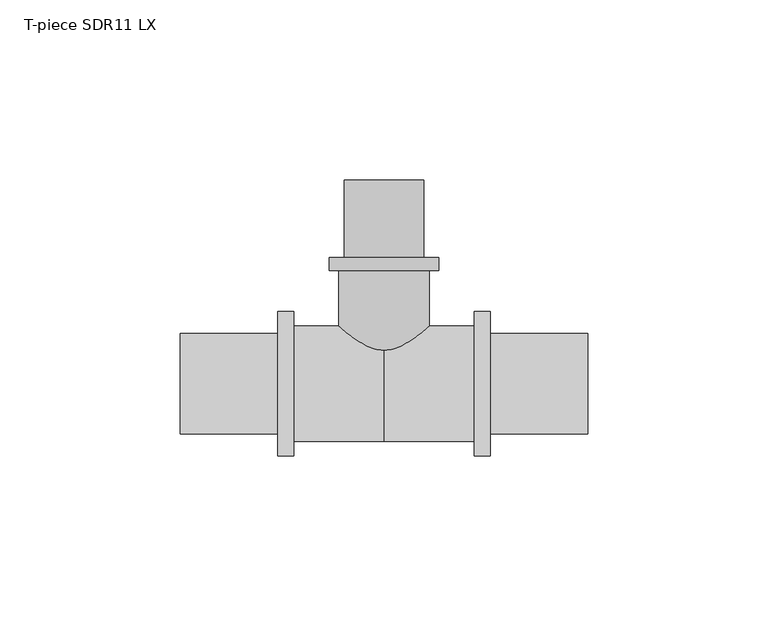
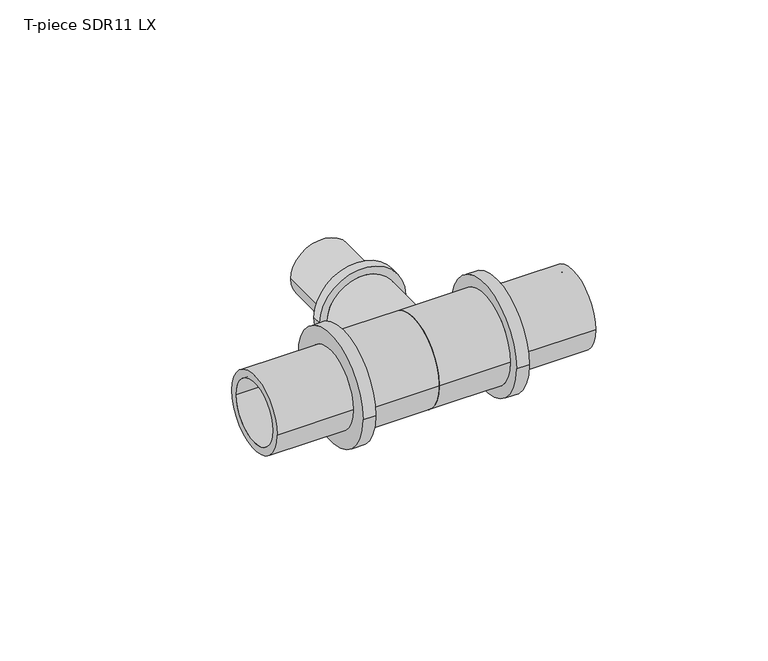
"""IFC4 building model written with IfcOpenShell, lengths in millimetres: pipe fitting geometry, T-piece SDR11 LX : T-piece LX SDR11 LX."""

from ifc_helpers import new_model, si_unit, point, frame, origin, place, context, project, spatial, polyline, circle_curve, ellipse_curve, trimmed, source, transform, mapped, element, save
from ifc_brep_helpers import plane_surface, cylinder_surface, revolved_surface, advanced_brep


def t_piece_sdr11_lx_571a734e(model_context):
    return source(origin(), model_context, "Body", "AdvancedBrep", [
        advanced_brep(
        [(12.5, 1.6314295, 0.0), (-12.5, 1.6314295, 0.0), (-12.5, 31.4, 0.0), (12.5, 31.4, 0.0), (8.9, 56.5, 0.0), (-8.9, 56.5, 0.0), (-8.9, 0.0, 0.0), (8.9, 0.0, 0.0), (11.0, 35.0, 0.0), (-11.0, 35.0, 0.0), (-11.0, 56.5, 0.0), (11.0, 56.5, 0.0), (15.25, 31.4, 0.0), (-15.25, 31.4, 0.0), (-15.25, 35.0, 0.0), (15.25, 35.0, 0.0)],
        [
            (0, 1, circle_curve(frame((0.0, 1.6314295, 0.0), z_axis=(0.0, 1.0, 0.0), x_axis=(-1.0, 0.0, 0.0)), 12.5)),
            (1, 2),
            (2, 3, circle_curve(frame((0.0, 31.4, 0.0), z_axis=(0.0, -1.0, 0.0), x_axis=(-1.0, 0.0, 0.0)), 12.5)),
            (3, 0),
            (4, 5, circle_curve(frame((0.0, 56.5, 0.0), z_axis=(0.0, 1.0, 0.0), x_axis=(-1.0, 0.0, 0.0)), 8.9)),
            (5, 6),
            (6, 7, circle_curve(frame((0.0, 0.0, 0.0), z_axis=(0.0, -1.0, 0.0), x_axis=(-1.0, 0.0, 0.0)), 8.9)),
            (7, 4),
            (8, 9, circle_curve(frame((0.0, 35.0, 0.0), z_axis=(0.0, 1.0, 0.0), x_axis=(-1.0, 0.0, 0.0)), 11.0)),
            (9, 10),
            (10, 11, circle_curve(frame((0.0, 56.5, 0.0), z_axis=(0.0, -1.0, 0.0), x_axis=(-1.0, 0.0, 0.0)), 11.0)),
            (11, 8),
            (12, 13, circle_curve(frame((0.0, 31.4, 0.0), z_axis=(0.0, 1.0, 0.0), x_axis=(-1.0, 0.0, 0.0)), 15.25)),
            (13, 14),
            (14, 15, circle_curve(frame((0.0, 35.0, 0.0), z_axis=(0.0, -1.0, 0.0), x_axis=(-1.0, 0.0, 0.0)), 15.25)),
            (15, 12),
            (12, 13, circle_curve(frame((0.0, 31.4, 0.0), z_axis=(0.0, -1.0, 0.0), x_axis=(1.0, 0.0, 0.0)), 15.25)),
            (2, 3, circle_curve(frame((0.0, 31.4, 0.0), z_axis=(0.0, 1.0, 0.0), x_axis=(1.0, 0.0, 0.0)), 12.5)),
            (1, 0, circle_curve(frame((0.0, 1.6314295, 0.0), z_axis=(0.0, 1.0, 0.0), x_axis=(1.0, 0.0, 0.0)), 12.5)),
            (5, 4, circle_curve(frame((0.0, 56.5, 0.0), z_axis=(0.0, 1.0, 0.0), x_axis=(1.0, 0.0, 0.0)), 8.9)),
            (7, 6, circle_curve(frame((0.0, 0.0, 0.0), z_axis=(0.0, -1.0, 0.0), x_axis=(1.0, 0.0, 0.0)), 8.9)),
            (10, 11, circle_curve(frame((0.0, 56.5, 0.0), z_axis=(0.0, 1.0, 0.0), x_axis=(1.0, 0.0, 0.0)), 11.0)),
            (9, 8, circle_curve(frame((0.0, 35.0, 0.0), z_axis=(0.0, 1.0, 0.0), x_axis=(1.0, 0.0, 0.0)), 11.0)),
            (14, 15, circle_curve(frame((0.0, 35.0, 0.0), z_axis=(0.0, 1.0, 0.0), x_axis=(1.0, 0.0, 0.0)), 15.25)),
            (6, 1, circle_curve(frame((-4.1462802, 15.2775046, 0.0), z_axis=(0.0, 0.0, -1.0), x_axis=(0.0, -1.0, 0.0)), 16.0)),
            (0, 7, circle_curve(frame((4.1462802, 15.2775046, 0.0), z_axis=(0.0, 0.0, -1.0), x_axis=(0.0, -1.0, 0.0)), 16.0)),
        ],
        [
            cylinder_surface(frame((0.0, 0.0, 0.0), z_axis=(0.0, -1.0, 0.0), x_axis=(-1.0, 0.0, 0.0)), 12.5),
            revolved_surface(polyline([(-8.9, 0.0, 0.0), (-8.9, 56.5, 0.0)]), (0.0, 0.0, 0.0), (0.0, -1.0, 0.0)),
            cylinder_surface(frame((0.0, 0.0, 0.0), z_axis=(0.0, -1.0, 0.0), x_axis=(-1.0, 0.0, 0.0)), 11.0),
            cylinder_surface(frame((0.0, 0.0, 0.0), z_axis=(0.0, -1.0, 0.0), x_axis=(-1.0, 0.0, 0.0)), 15.25),
            plane_surface(frame((0.0, 31.4, 0.0), z_axis=(0.0, -1.0, 0.0), x_axis=(1.0, 0.0, 0.0))),
            cylinder_surface(frame((0.0, 0.0, 0.0), z_axis=(0.0, -1.0, 0.0), x_axis=(1.0, 0.0, 0.0)), 12.5),
            revolved_surface(polyline([(8.9, 0.0, 0.0), (8.9, 56.5, 0.0)]), (0.0, 0.0, 0.0), (0.0, -1.0, 0.0)),
            plane_surface(frame((0.0, 56.5, 0.0), z_axis=(0.0, 1.0, 0.0), x_axis=(1.0, 0.0, 0.0))),
            cylinder_surface(frame((0.0, 0.0, 0.0), z_axis=(0.0, -1.0, 0.0), x_axis=(1.0, 0.0, 0.0)), 11.0),
            plane_surface(frame((0.0, 35.0, 0.0), z_axis=(0.0, 1.0, 0.0), x_axis=(1.0, 0.0, 0.0))),
            cylinder_surface(frame((0.0, 0.0, 0.0), z_axis=(0.0, -1.0, 0.0), x_axis=(1.0, 0.0, 0.0)), 15.25),
            revolved_surface(trimmed(ellipse_curve(frame((-4.1462802, 15.2775046, 0.0), z_axis=(0.0, 0.0, 1.0), x_axis=(0.0, -1.0, 0.0)), 16.0, 16.0), [point((-12.5, 1.6314295, 0.0))], [point((-8.9, 0.0, 0.0))], True, "CARTESIAN"), (0.0, 0.0, 0.0), (0.0, -1.0, 0.0)),
            revolved_surface(trimmed(ellipse_curve(frame((4.1462802, 15.2775046, 0.0), z_axis=(0.0, 0.0, -1.0), x_axis=(0.0, -1.0, 0.0)), 16.0, 16.0), [point((12.5, 1.6314295, 0.0))], [point((8.9, 0.0, 0.0))], True, "CARTESIAN"), (0.0, 0.0, 0.0), (0.0, -1.0, 0.0)),
        ],
        [
            (0, [[1, 2, 3, 4]]),
            (1, [[5, 6, 7, 8]]),
            (2, [[9, 10, 11, 12]]),
            (3, [[13, 14, 15, 16]]),
            (4, [[17, -13], [18, -3]]),
            (5, [[19, -4, -18, -2]]),
            (6, [[20, -8, 21, -6]]),
            (7, [[22, -11], [-20, -5]]),
            (8, [[23, -12, -22, -10]]),
            (9, [[24, -15], [-23, -9]]),
            (10, [[-17, -16, -24, -14]]),
            (11, [[-7, 25, -1, 26]]),
            (12, [[-21, -26, -19, -25]]),
        ],
    ),
        advanced_brep(
        [(25.0, 16.0, 0.0), (25.0, -16.0, 0.0), (0.0, -16.0, 0.0), (0.0, 16.0, 0.0), (0.0, 11.2, 0.0), (0.0, -11.2, 0.0), (56.5, -11.2, 0.0), (56.5, 11.2, 0.0), (56.5, 13.95, 0.0), (56.5, -13.95, 0.0), (29.5, -13.95, 0.0), (29.5, 13.95, 0.0), (29.5, 20.0, 0.0), (29.5, -20.0, 0.0), (25.0, -20.0, 0.0), (25.0, 20.0, 0.0)],
        [
            (0, 1, circle_curve(frame((25.0, 0.0, 0.0), z_axis=(-1.0, 0.0, 0.0), x_axis=(0.0, -1.0, 0.0)), 16.0)),
            (1, 2),
            (2, 3, circle_curve(frame((0.0, 0.0, 0.0), z_axis=(1.0, 0.0, 0.0), x_axis=(0.0, -1.0, 0.0)), 16.0)),
            (3, 0),
            (4, 5, circle_curve(frame((0.0, 0.0, 0.0), z_axis=(-1.0, 0.0, 0.0), x_axis=(0.0, -1.0, 0.0)), 11.2)),
            (5, 6),
            (6, 7, circle_curve(frame((56.5, 0.0, 0.0), z_axis=(1.0, 0.0, 0.0), x_axis=(0.0, -1.0, 0.0)), 11.2)),
            (7, 4),
            (8, 9, circle_curve(frame((56.5, 0.0, 0.0), z_axis=(-1.0, 0.0, 0.0), x_axis=(0.0, -1.0, 0.0)), 13.95)),
            (9, 10),
            (10, 11, circle_curve(frame((29.5, 0.0, 0.0), z_axis=(1.0, 0.0, 0.0), x_axis=(0.0, -1.0, 0.0)), 13.95)),
            (11, 8),
            (12, 13, circle_curve(frame((29.5, 0.0, 0.0), z_axis=(-1.0, 0.0, 0.0), x_axis=(0.0, -1.0, 0.0)), 20.0)),
            (13, 14),
            (14, 15, circle_curve(frame((25.0, 0.0, 0.0), z_axis=(1.0, 0.0, 0.0), x_axis=(0.0, -1.0, 0.0)), 20.0)),
            (15, 12),
            (14, 15, circle_curve(frame((25.0, 0.0, 0.0), z_axis=(-1.0, 0.0, 0.0), x_axis=(0.0, 1.0, 0.0)), 20.0)),
            (0, 1, circle_curve(frame((25.0, 0.0, 0.0), z_axis=(1.0, 0.0, 0.0), x_axis=(0.0, 1.0, 0.0)), 16.0)),
            (3, 2, circle_curve(frame((0.0, 0.0, 0.0), z_axis=(1.0, 0.0, 0.0), x_axis=(0.0, 1.0, 0.0)), 16.0)),
            (4, 5, circle_curve(frame((0.0, 0.0, 0.0), z_axis=(1.0, 0.0, 0.0), x_axis=(0.0, 1.0, 0.0)), 11.2)),
            (7, 6, circle_curve(frame((56.5, 0.0, 0.0), z_axis=(1.0, 0.0, 0.0), x_axis=(0.0, 1.0, 0.0)), 11.2)),
            (8, 9, circle_curve(frame((56.5, 0.0, 0.0), z_axis=(1.0, 0.0, 0.0), x_axis=(0.0, 1.0, 0.0)), 13.95)),
            (11, 10, circle_curve(frame((29.5, 0.0, 0.0), z_axis=(1.0, 0.0, 0.0), x_axis=(0.0, 1.0, 0.0)), 13.95)),
            (12, 13, circle_curve(frame((29.5, 0.0, 0.0), z_axis=(1.0, 0.0, 0.0), x_axis=(0.0, 1.0, 0.0)), 20.0)),
        ],
        [
            cylinder_surface(frame((0.0, 0.0, 0.0), z_axis=(1.0, 0.0, 0.0), x_axis=(0.0, -1.0, 0.0)), 16.0),
            revolved_surface(polyline([(56.5, -11.2, 0.0), (0.0, -11.2, 0.0)]), (0.0, 0.0, 0.0), (1.0, 0.0, 0.0)),
            cylinder_surface(frame((0.0, 0.0, 0.0), z_axis=(1.0, 0.0, 0.0), x_axis=(0.0, -1.0, 0.0)), 13.95),
            cylinder_surface(frame((0.0, 0.0, 0.0), z_axis=(1.0, 0.0, 0.0), x_axis=(0.0, -1.0, 0.0)), 20.0),
            plane_surface(frame((25.0, 0.0, 0.0), z_axis=(-1.0, 0.0, 0.0), x_axis=(0.0, 1.0, 0.0))),
            cylinder_surface(frame((0.0, 0.0, 0.0), z_axis=(1.0, 0.0, 0.0), x_axis=(0.0, 1.0, 0.0)), 16.0),
            plane_surface(frame((0.0, 0.0, 0.0), z_axis=(-1.0, 0.0, 0.0), x_axis=(0.0, 1.0, 0.0))),
            revolved_surface(polyline([(56.5, 11.2, 0.0), (0.0, 11.2, 0.0)]), (0.0, 0.0, 0.0), (1.0, 0.0, 0.0)),
            plane_surface(frame((56.5, 0.0, 0.0), z_axis=(1.0, 0.0, 0.0), x_axis=(0.0, 1.0, 0.0))),
            cylinder_surface(frame((0.0, 0.0, 0.0), z_axis=(1.0, 0.0, 0.0), x_axis=(0.0, 1.0, 0.0)), 13.95),
            plane_surface(frame((29.5, 0.0, 0.0), z_axis=(1.0, 0.0, 0.0), x_axis=(0.0, 1.0, 0.0))),
            cylinder_surface(frame((0.0, 0.0, 0.0), z_axis=(1.0, 0.0, 0.0), x_axis=(0.0, 1.0, 0.0)), 20.0),
        ],
        [
            (0, [[1, 2, 3, 4]]),
            (1, [[5, 6, 7, 8]]),
            (2, [[9, 10, 11, 12]]),
            (3, [[13, 14, 15, 16]]),
            (4, [[17, -15], [18, -1]]),
            (5, [[-18, -4, 19, -2]]),
            (6, [[-19, -3], [20, -5]]),
            (7, [[-20, -8, 21, -6]]),
            (8, [[22, -9], [-21, -7]]),
            (9, [[-22, -12, 23, -10]]),
            (10, [[24, -13], [-23, -11]]),
            (11, [[-24, -16, -17, -14]]),
        ],
    ),
        advanced_brep(
        [(0.0, 16.0, 0.0), (0.0, -16.0, 0.0), (-25.0, -16.0, 0.0), (-25.0, 16.0, 0.0), (-56.5, 11.2, 0.0), (-56.5, -11.2, 0.0), (0.0, -11.2, 0.0), (0.0, 11.2, 0.0), (-29.5, 13.95, 0.0), (-29.5, -13.95, 0.0), (-56.5, -13.95, 0.0), (-56.5, 13.95, 0.0), (-25.0, 20.0, 0.0), (-25.0, -20.0, 0.0), (-29.5, -20.0, 0.0), (-29.5, 20.0, 0.0)],
        [
            (0, 1, circle_curve(frame((0.0, 0.0, 0.0), z_axis=(-1.0, 0.0, 0.0), x_axis=(0.0, -1.0, 0.0)), 16.0)),
            (1, 2),
            (2, 3, circle_curve(frame((-25.0, 0.0, 0.0), z_axis=(1.0, 0.0, 0.0), x_axis=(0.0, -1.0, 0.0)), 16.0)),
            (3, 0),
            (4, 5, circle_curve(frame((-56.5, 0.0, 0.0), z_axis=(-1.0, 0.0, 0.0), x_axis=(0.0, -1.0, 0.0)), 11.2)),
            (5, 6),
            (6, 7, circle_curve(frame((0.0, 0.0, 0.0), z_axis=(1.0, 0.0, 0.0), x_axis=(0.0, -1.0, 0.0)), 11.2)),
            (7, 4),
            (8, 9, circle_curve(frame((-29.5, 0.0, 0.0), z_axis=(-1.0, 0.0, 0.0), x_axis=(0.0, -1.0, 0.0)), 13.95)),
            (9, 10),
            (10, 11, circle_curve(frame((-56.5, 0.0, 0.0), z_axis=(1.0, 0.0, 0.0), x_axis=(0.0, -1.0, 0.0)), 13.95)),
            (11, 8),
            (12, 13, circle_curve(frame((-25.0, 0.0, 0.0), z_axis=(-1.0, 0.0, 0.0), x_axis=(0.0, -1.0, 0.0)), 20.0)),
            (13, 14),
            (14, 15, circle_curve(frame((-29.5, 0.0, 0.0), z_axis=(1.0, 0.0, 0.0), x_axis=(0.0, -1.0, 0.0)), 20.0)),
            (15, 12),
            (12, 13, circle_curve(frame((-25.0, 0.0, 0.0), z_axis=(1.0, 0.0, 0.0), x_axis=(0.0, 1.0, 0.0)), 20.0)),
            (2, 3, circle_curve(frame((-25.0, 0.0, 0.0), z_axis=(-1.0, 0.0, 0.0), x_axis=(0.0, 1.0, 0.0)), 16.0)),
            (1, 0, circle_curve(frame((0.0, 0.0, 0.0), z_axis=(-1.0, 0.0, 0.0), x_axis=(0.0, 1.0, 0.0)), 16.0)),
            (6, 7, circle_curve(frame((0.0, 0.0, 0.0), z_axis=(-1.0, 0.0, 0.0), x_axis=(0.0, 1.0, 0.0)), 11.2)),
            (5, 4, circle_curve(frame((-56.5, 0.0, 0.0), z_axis=(-1.0, 0.0, 0.0), x_axis=(0.0, 1.0, 0.0)), 11.2)),
            (10, 11, circle_curve(frame((-56.5, 0.0, 0.0), z_axis=(-1.0, 0.0, 0.0), x_axis=(0.0, 1.0, 0.0)), 13.95)),
            (9, 8, circle_curve(frame((-29.5, 0.0, 0.0), z_axis=(-1.0, 0.0, 0.0), x_axis=(0.0, 1.0, 0.0)), 13.95)),
            (14, 15, circle_curve(frame((-29.5, 0.0, 0.0), z_axis=(-1.0, 0.0, 0.0), x_axis=(0.0, 1.0, 0.0)), 20.0)),
        ],
        [
            cylinder_surface(frame((0.0, 0.0, 0.0), z_axis=(1.0, 0.0, 0.0), x_axis=(0.0, -1.0, 0.0)), 16.0),
            revolved_surface(polyline([(0.0, -11.2, 0.0), (-56.5, -11.2, 0.0)]), (0.0, 0.0, 0.0), (1.0, 0.0, 0.0)),
            cylinder_surface(frame((0.0, 0.0, 0.0), z_axis=(1.0, 0.0, 0.0), x_axis=(0.0, -1.0, 0.0)), 13.95),
            cylinder_surface(frame((0.0, 0.0, 0.0), z_axis=(1.0, 0.0, 0.0), x_axis=(0.0, -1.0, 0.0)), 20.0),
            plane_surface(frame((-25.0, 0.0, 0.0), z_axis=(1.0, 0.0, 0.0), x_axis=(0.0, 1.0, 0.0))),
            cylinder_surface(frame((0.0, 0.0, 0.0), z_axis=(1.0, 0.0, 0.0), x_axis=(0.0, 1.0, 0.0)), 16.0),
            plane_surface(frame((0.0, 0.0, 0.0), z_axis=(1.0, 0.0, 0.0), x_axis=(0.0, 1.0, 0.0))),
            revolved_surface(polyline([(0.0, 11.2, 0.0), (-56.5, 11.2, 0.0)]), (0.0, 0.0, 0.0), (1.0, 0.0, 0.0)),
            plane_surface(frame((-56.5, 0.0, 0.0), z_axis=(-1.0, 0.0, 0.0), x_axis=(0.0, 1.0, 0.0))),
            cylinder_surface(frame((0.0, 0.0, 0.0), z_axis=(1.0, 0.0, 0.0), x_axis=(0.0, 1.0, 0.0)), 13.95),
            plane_surface(frame((-29.5, 0.0, 0.0), z_axis=(-1.0, 0.0, 0.0), x_axis=(0.0, 1.0, 0.0))),
            cylinder_surface(frame((0.0, 0.0, 0.0), z_axis=(1.0, 0.0, 0.0), x_axis=(0.0, 1.0, 0.0)), 20.0),
        ],
        [
            (0, [[1, 2, 3, 4]]),
            (1, [[5, 6, 7, 8]]),
            (2, [[9, 10, 11, 12]]),
            (3, [[13, 14, 15, 16]]),
            (4, [[17, -13], [18, -3]]),
            (5, [[19, -4, -18, -2]]),
            (6, [[-19, -1], [20, -7]]),
            (7, [[21, -8, -20, -6]]),
            (8, [[22, -11], [-21, -5]]),
            (9, [[23, -12, -22, -10]]),
            (10, [[24, -15], [-23, -9]]),
            (11, [[-17, -16, -24, -14]]),
        ],
    ),
    ])


if __name__ == "__main__":
    model = new_model("IFC4")
    model_context = context("Model", 3, world=origin())
    ifc_project = project(units=[si_unit("LENGTHUNIT", "METRE", prefix="MILLI")], contexts=[model_context])
    site = spatial("IfcSite", under=ifc_project)
    building = spatial("IfcBuilding", under=site)
    placement = place(None, origin())
    t_piece_sdr11_lx_shape = t_piece_sdr11_lx_571a734e(model_context)
    element("IfcPipeFitting", 1, ObjectType="T-piece SDR11 LX : T-piece LX SDR11 LX", at=placement, inside=building, context=model_context, shape_type="MappedRepresentation", body=[
        mapped(t_piece_sdr11_lx_shape, transform((0.0, 0.0, 0.0), x_axis=(1.0, 0.0, 0.0), y_axis=(0.0, 1.0, 0.0), z_axis=(0.0, 0.0, 1.0))),
    ])
    save(model, "model.ifc")
